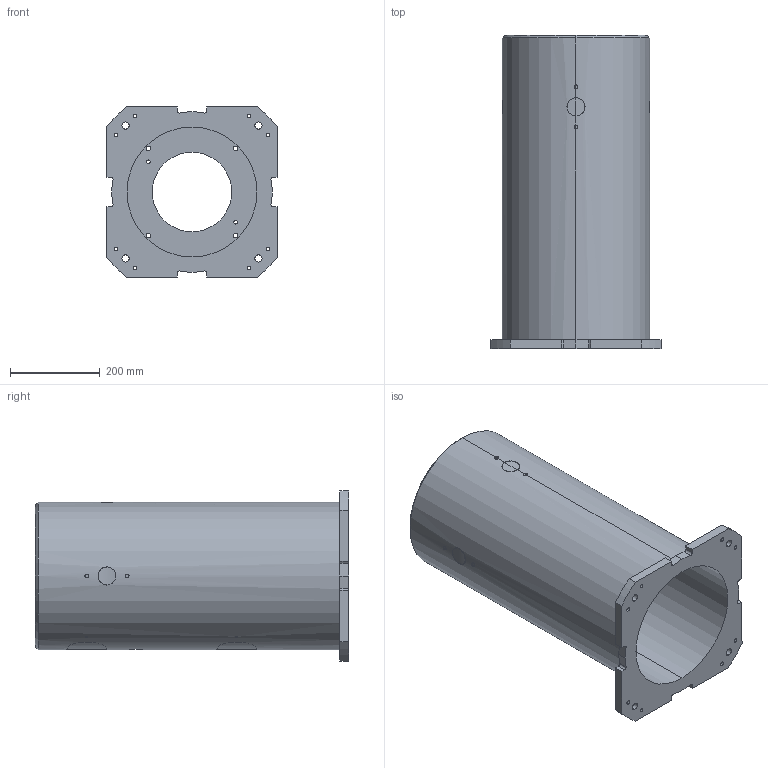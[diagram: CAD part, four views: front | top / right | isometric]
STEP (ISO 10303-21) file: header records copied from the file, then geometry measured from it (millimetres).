
FILE_DESCRIPTION (( 'STEP AP214' ), '1' );
FILE_NAME ('E-700.STEP', '2024-01-19T08:53:27', ( '' ), ( '' ), 'SwSTEP 2.0', 'SolidWorks 2022', '' );
FILE_SCHEMA (( 'AUTOMOTIVE_DESIGN' ));
Length unit declared in the file: millimetre
Products named in the file (1): E-700
Bounding box: 380 x 700 x 380 mm (x, y, z)
Volume: 15339797.9 mm3; surface area: 1598478.4 mm2
Topology: 1 solids, 1 shells, 167 faces, 457 edges, 304 vertices
Faces by surface type: cylinder 113, plane 28, bspline 24, cone 2
Entity records: 12428 total; most frequent: CARTESIAN_POINT 7721, ORIENTED_EDGE 914, DIRECTION 717, EDGE_CURVE 457, VERTEX_POINT 304, AXIS2_PLACEMENT_3D 270, EDGE_LOOP 217, LINE 177
